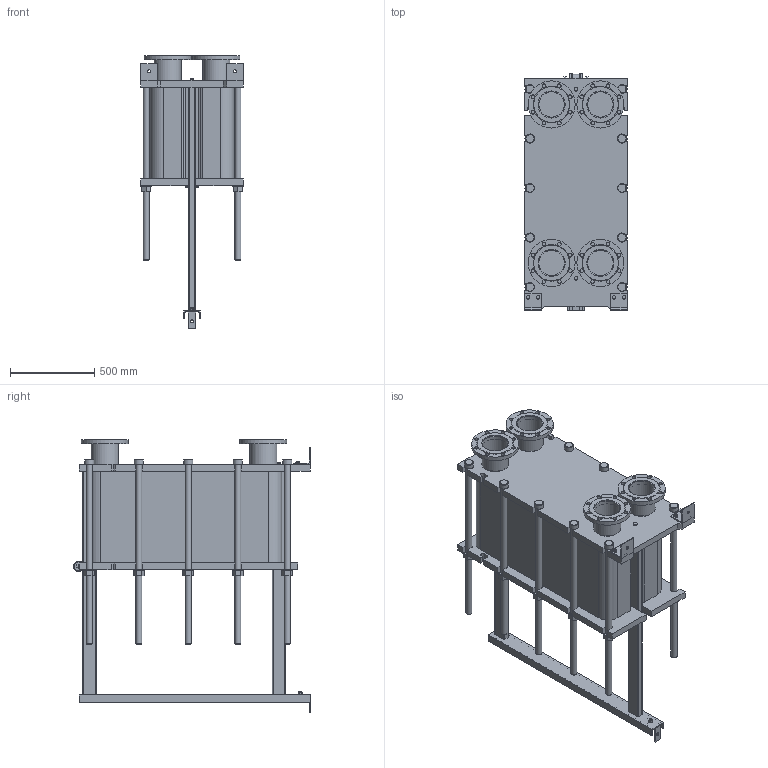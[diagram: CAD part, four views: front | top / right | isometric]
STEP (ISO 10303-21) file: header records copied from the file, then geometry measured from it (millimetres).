
FILE_DESCRIPTION(/* description */ (''),/* implementation_level */ '2;1');
FILE_NAME(/* name */ 'C:\Users\zhuro\Desktop\ENCO\TO\ЭН-041\ЭН-0,5-041-158-1.stp',/* time_stamp */ '2022-06-06T11:02:51+03:00',/* author */ ('zhuro'),/* organization */ (''),/* preprocessor_version */ 'ST-DEVELOPER v18.1',/* originating_system */ 'Autodesk Inventor 2022',/* authorisation */ '');
FILE_SCHEMA (('AUTOMOTIVE_DESIGN { 1 0 10303 214 3 1 1 }'));
Length unit declared in the file: millimetre
Products named in the file (1): ЭН-0,5-041-158-1
Bounding box: 610 x 1406.5 x 1625 mm (x, y, z)
Volume: 391133521 mm3; surface area: 10303363.6 mm2
Topology: 52 solids, 52 shells, 711 faces, 1696 edges, 1094 vertices
Faces by surface type: plane 487, cylinder 177, cone 41, torus 6
Full cylindrical faces by diameter (mm): 8 x4, 10 x2, 16 x8, 18 x3, 22 x32, 36 x24, 50 x1, 54 x10, 60 x12, 151 x4, 161 x8, 280 x4
Entity records: 22667 total; most frequent: CARTESIAN_POINT 5230, DIRECTION 3644, ORIENTED_EDGE 3392, EDGE_CURVE 1696, AXIS2_PLACEMENT_3D 1272, LINE 1100, VECTOR 1100, VERTEX_POINT 1094
